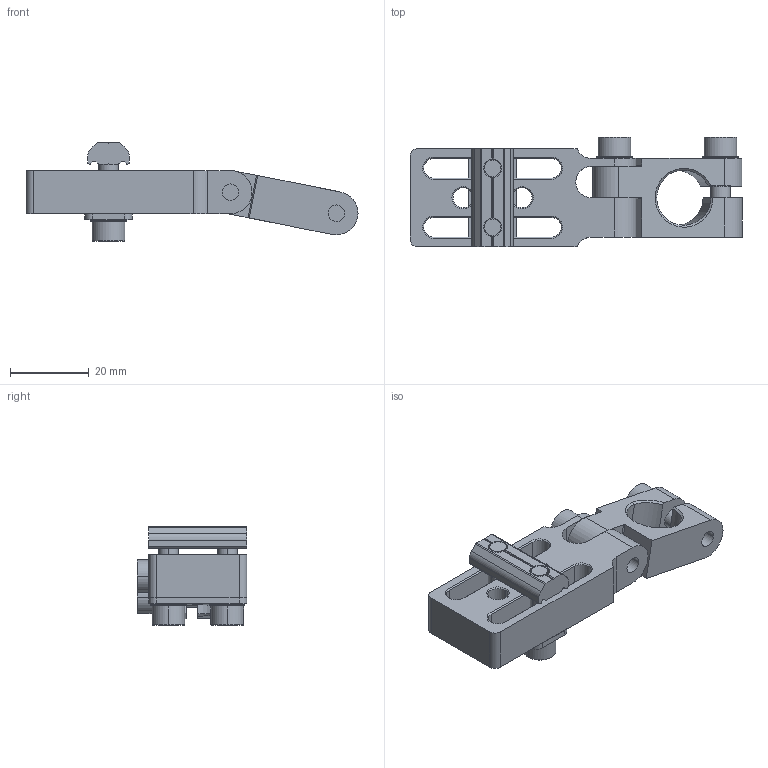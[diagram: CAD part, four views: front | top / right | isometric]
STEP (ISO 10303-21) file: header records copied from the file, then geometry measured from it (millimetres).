
FILE_DESCRIPTION (( 'STEP AP214' ), '1' );
FILE_NAME ('SMBE3-1430T.STEP', '2022-12-14T03:42:00', ( '' ), ( '' ), 'SwSTEP 2.0', 'SolidWorks 2018', '' );
FILE_SCHEMA (( 'AUTOMOTIVE_DESIGN' ));
Length unit declared in the file: millimetre
Products named in the file (1): SMBE3-1430T
Bounding box: 84.47 x 27.95 x 25 mm (x, y, z)
Volume: 17168.7 mm3; surface area: 12931.8 mm2
Topology: 12 solids, 12 shells, 902 faces, 2584 edges, 1702 vertices
Faces by surface type: plane 745, cylinder 99, cone 58
Entity records: 39879 total; most frequent: CARTESIAN_POINT 5387, DIRECTION 5246, ORIENTED_EDGE 5168, EDGE_CURVE 2584, AXIS2_PLACEMENT_3D 1793, VERTEX_POINT 1702, LINE 1660, VECTOR 1660
